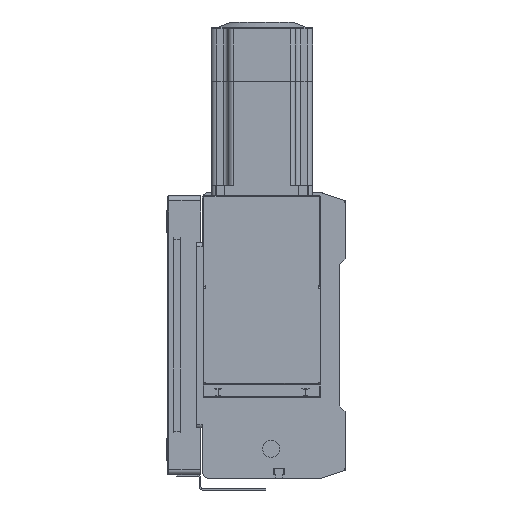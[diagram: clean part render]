
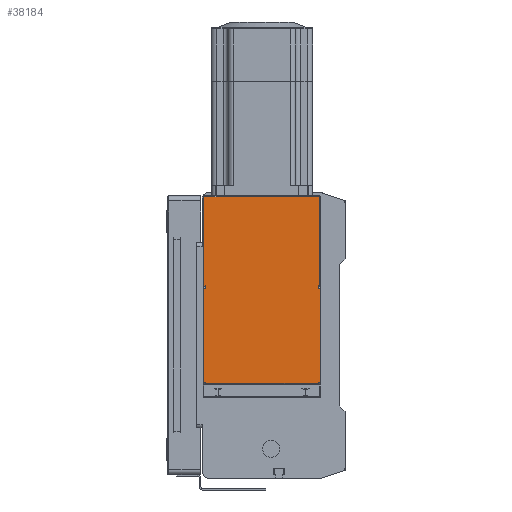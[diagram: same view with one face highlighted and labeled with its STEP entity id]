
A CAD part, left-side view. The second image highlights one B-rep face of the part: STEP entity #38184.
In plain terms, the highlighted planar face has unit normal (-1, 0, 0).
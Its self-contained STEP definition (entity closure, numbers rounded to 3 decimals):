
#25459=DIRECTION('',(0.,1.,0.));
#25460=VECTOR('',#25459,69.);
#25461=CARTESIAN_POINT('',(-333.5,15.5,82.5));
#25462=LINE('',#25461,#25460);
#25507=DIRECTION('',(0.,-1.,0.));
#25508=VECTOR('',#25507,1.);
#25509=CARTESIAN_POINT('',(-333.5,16.5,29.4));
#25510=LINE('',#25509,#25508);
#25701=DIRECTION('',(0.,0.,-1.));
#25702=VECTOR('',#25701,56.);
#25703=CARTESIAN_POINT('',(-333.5,85.,28.));
#25704=LINE('',#25703,#25702);
#25791=DIRECTION('',(0.,0.,-1.));
#25792=VECTOR('',#25791,1.4);
#25793=CARTESIAN_POINT('',(-333.5,83.5,29.4));
#25794=LINE('',#25793,#25792);
#25809=DIRECTION('',(0.,1.,0.));
#25810=VECTOR('',#25809,1.);
#25811=CARTESIAN_POINT('',(-333.5,83.5,29.4));
#25812=LINE('',#25811,#25810);
#25813=DIRECTION('',(0.,0.,-1.));
#25814=VECTOR('',#25813,1.4);
#25815=CARTESIAN_POINT('',(-333.5,16.5,29.4));
#25816=LINE('',#25815,#25814);
#25817=DIRECTION('',(0.,0.,-1.));
#25818=VECTOR('',#25817,56.);
#25819=CARTESIAN_POINT('',(-333.5,15.,28.));
#25820=LINE('',#25819,#25818);
#25821=DIRECTION('',(0.,1.,0.));
#25822=VECTOR('',#25821,1.5);
#25823=CARTESIAN_POINT('',(-333.5,15.,-28.));
#25824=LINE('',#25823,#25822);
#25825=DIRECTION('',(0.,0.,-1.));
#25826=VECTOR('',#25825,0.5);
#25827=CARTESIAN_POINT('',(-333.5,16.5,-28.));
#25828=LINE('',#25827,#25826);
#25834=DIRECTION('',(0.,0.,-1.));
#25835=VECTOR('',#25834,0.5);
#25836=CARTESIAN_POINT('',(-333.5,83.5,-28.));
#25837=LINE('',#25836,#25835);
#25850=DIRECTION('',(0.,-1.,0.));
#25851=VECTOR('',#25850,1.5);
#25852=CARTESIAN_POINT('',(-333.5,85.,-28.));
#25853=LINE('',#25852,#25851);
#25874=DIRECTION('',(0.,-1.,0.));
#25875=VECTOR('',#25874,67.);
#25876=CARTESIAN_POINT('',(-333.5,83.5,-28.5));
#25877=LINE('',#25876,#25875);
#26985=DIRECTION('',(0.,1.,0.));
#26986=VECTOR('',#26985,1.5);
#26987=CARTESIAN_POINT('',(-333.5,83.5,28.));
#26988=LINE('',#26987,#26986);
#27009=DIRECTION('',(0.,0.,-1.));
#27010=VECTOR('',#27009,53.1);
#27011=CARTESIAN_POINT('',(-333.5,84.5,82.5));
#27012=LINE('',#27011,#27010);
#27013=DIRECTION('',(0.,0.,1.));
#27014=VECTOR('',#27013,53.1);
#27015=CARTESIAN_POINT('',(-333.5,15.5,29.4));
#27016=LINE('',#27015,#27014);
#27153=DIRECTION('',(0.,1.,0.));
#27154=VECTOR('',#27153,1.5);
#27155=CARTESIAN_POINT('',(-333.5,15.,28.));
#27156=LINE('',#27155,#27154);
#31369=CARTESIAN_POINT('',(-333.5,84.5,29.4));
#31370=VERTEX_POINT('',#31369);
#31371=CARTESIAN_POINT('',(-333.5,83.5,29.4));
#31372=VERTEX_POINT('',#31371);
#31707=CARTESIAN_POINT('',(-333.5,16.5,-28.));
#31709=VERTEX_POINT('',#31707);
#31714=CARTESIAN_POINT('',(-333.5,16.5,-28.5));
#31716=VERTEX_POINT('',#31714);
#31763=CARTESIAN_POINT('',(-333.5,15.,-28.));
#31764=VERTEX_POINT('',#31763);
#31765=CARTESIAN_POINT('',(-333.5,15.,28.));
#31766=VERTEX_POINT('',#31765);
#31917=CARTESIAN_POINT('',(-333.5,83.5,28.));
#31918=CARTESIAN_POINT('',(-333.5,85.,28.));
#31919=VERTEX_POINT('',#31917);
#31920=VERTEX_POINT('',#31918);
#31921=CARTESIAN_POINT('',(-333.5,16.5,29.4));
#31922=CARTESIAN_POINT('',(-333.5,15.5,29.4));
#31923=VERTEX_POINT('',#31921);
#31924=VERTEX_POINT('',#31922);
#31925=CARTESIAN_POINT('',(-333.5,16.5,28.));
#31926=VERTEX_POINT('',#31925);
#31927=CARTESIAN_POINT('',(-333.5,83.5,-28.));
#31928=CARTESIAN_POINT('',(-333.5,83.5,-28.5));
#31929=VERTEX_POINT('',#31927);
#31930=VERTEX_POINT('',#31928);
#31939=CARTESIAN_POINT('',(-333.5,85.,-28.));
#31940=VERTEX_POINT('',#31939);
#32357=CARTESIAN_POINT('',(-333.5,84.5,82.5));
#32358=VERTEX_POINT('',#32357);
#32379=CARTESIAN_POINT('',(-333.5,15.5,82.5));
#32380=VERTEX_POINT('',#32379);
#38152=CARTESIAN_POINT('',(-333.5,50.,27.));
#38153=DIRECTION('',(1.,0.,0.));
#38154=DIRECTION('',(0.,0.,-1.));
#38155=AXIS2_PLACEMENT_3D('',#38152,#38153,#38154);
#38156=PLANE('',#38155);
#38158=ORIENTED_EDGE('',*,*,#38157,.F.);
#38160=ORIENTED_EDGE('',*,*,#38159,.F.);
#38161=ORIENTED_EDGE('',*,*,#38078,.F.);
#38163=ORIENTED_EDGE('',*,*,#38162,.F.);
#38164=ORIENTED_EDGE('',*,*,#38141,.F.);
#38165=ORIENTED_EDGE('',*,*,#37802,.T.);
#38167=ORIENTED_EDGE('',*,*,#38166,.F.);
#38168=ORIENTED_EDGE('',*,*,#37849,.F.);
#38170=ORIENTED_EDGE('',*,*,#38169,.F.);
#38171=ORIENTED_EDGE('',*,*,#37897,.F.);
#38172=ORIENTED_EDGE('',*,*,#37918,.T.);
#38174=ORIENTED_EDGE('',*,*,#38173,.F.);
#38175=ORIENTED_EDGE('',*,*,#37950,.T.);
#38177=ORIENTED_EDGE('',*,*,#38176,.T.);
#38179=ORIENTED_EDGE('',*,*,#38178,.T.);
#38181=ORIENTED_EDGE('',*,*,#38180,.F.);
#38182=EDGE_LOOP('',(#38158,#38160,#38161,#38163,#38164,#38165,#38167,#38168,
#38170,#38171,#38172,#38174,#38175,#38177,#38179,#38181));
#38183=FACE_OUTER_BOUND('',#38182,.F.);
#37802=EDGE_CURVE('',#31372,#31370,#25812,.T.);
#37849=EDGE_CURVE('',#32380,#32358,#25462,.T.);
#37897=EDGE_CURVE('',#31923,#31924,#25510,.T.);
#37918=EDGE_CURVE('',#31923,#31926,#25816,.T.);
#37950=EDGE_CURVE('',#31766,#31764,#25820,.T.);
#38078=EDGE_CURVE('',#31920,#31940,#25704,.T.);
#38141=EDGE_CURVE('',#31372,#31919,#25794,.T.);
#38157=EDGE_CURVE('',#31929,#31930,#25837,.T.);
#38159=EDGE_CURVE('',#31940,#31929,#25853,.T.);
#38162=EDGE_CURVE('',#31919,#31920,#26988,.T.);
#38166=EDGE_CURVE('',#32358,#31370,#27012,.T.);
#38169=EDGE_CURVE('',#31924,#32380,#27016,.T.);
#38173=EDGE_CURVE('',#31766,#31926,#27156,.T.);
#38176=EDGE_CURVE('',#31764,#31709,#25824,.T.);
#38178=EDGE_CURVE('',#31709,#31716,#25828,.T.);
#38180=EDGE_CURVE('',#31930,#31716,#25877,.T.);
#38184=ADVANCED_FACE('',(#38183),#38156,.F.);
